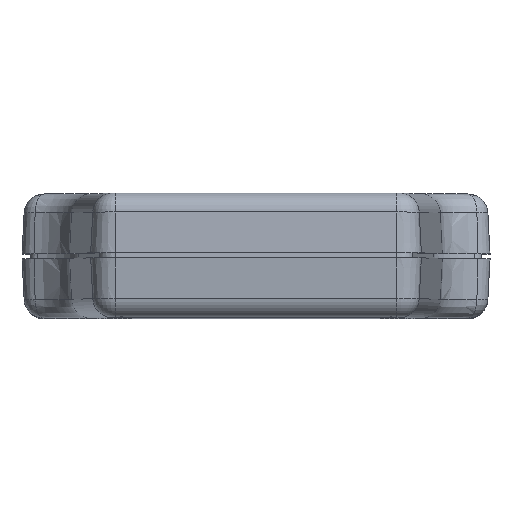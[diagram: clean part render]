
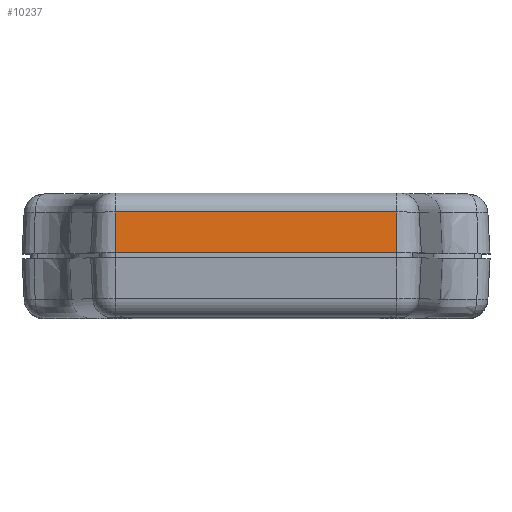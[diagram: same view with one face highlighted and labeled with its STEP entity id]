
A CAD part, top view. The second image highlights one B-rep face of the part: STEP entity #10237.
In plain terms, the highlighted planar face has unit normal (0, 0.052, 0.999).
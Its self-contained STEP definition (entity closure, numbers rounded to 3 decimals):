
#153 = CARTESIAN_POINT ( 'NONE',  ( 28.255, 0., 79.85 ) ) ;
#1122 = CARTESIAN_POINT ( 'NONE',  ( 28.255, 8.209, 79.42 ) ) ;
#1958 = VECTOR ( 'NONE', #7934, 1000. ) ;
#2160 = VECTOR ( 'NONE', #12649, 1000. ) ;
#2450 = EDGE_CURVE ( 'NONE', #12465, #6530, #3147, .T. ) ;
#3147 = LINE ( 'NONE', #10019, #7986 ) ;
#3350 = CARTESIAN_POINT ( 'NONE',  ( -28.255, 0., 79.85 ) ) ;
#3819 = DIRECTION ( 'NONE',  ( -1., 0., 0. ) ) ;
#3829 = CARTESIAN_POINT ( 'NONE',  ( 28.255, 0., 79.85 ) ) ;
#3922 = LINE ( 'NONE', #153, #11850 ) ;
#3965 = PLANE ( 'NONE',  #9781 ) ;
#4721 = LINE ( 'NONE', #3829, #1958 ) ;
#4910 = LINE ( 'NONE', #3350, #2160 ) ;
#4996 = VERTEX_POINT ( 'NONE', #13348 ) ;
#5029 = DIRECTION ( 'NONE',  ( 0., -0.999, 0.052 ) ) ;
#5603 = FACE_OUTER_BOUND ( 'NONE', #11298, .T. ) ;
#6530 = VERTEX_POINT ( 'NONE', #7273 ) ;
#6622 = ORIENTED_EDGE ( 'NONE', *, *, #2450, .T. ) ;
#6731 = CARTESIAN_POINT ( 'NONE',  ( -28.255, 0., 79.85 ) ) ;
#7273 = CARTESIAN_POINT ( 'NONE',  ( -28.255, 8.209, 79.42 ) ) ;
#7709 = EDGE_CURVE ( 'NONE', #6530, #10104, #4910, .T. ) ;
#7934 = DIRECTION ( 'NONE',  ( 0., -0.999, 0.052 ) ) ;
#7986 = VECTOR ( 'NONE', #3819, 1000. ) ;
#8081 = CARTESIAN_POINT ( 'NONE',  ( 28.255, 0., 79.85 ) ) ;
#8546 = ORIENTED_EDGE ( 'NONE', *, *, #8866, .T. ) ;
#8866 = EDGE_CURVE ( 'NONE', #10104, #4996, #3922, .T. ) ;
#8973 = ORIENTED_EDGE ( 'NONE', *, *, #7709, .T. ) ;
#9781 = AXIS2_PLACEMENT_3D ( 'NONE', #8081, #11211, #5029 ) ;
#10019 = CARTESIAN_POINT ( 'NONE',  ( 28.255, 8.209, 79.42 ) ) ;
#10104 = VERTEX_POINT ( 'NONE', #6731 ) ;
#10237 = ADVANCED_FACE ( 'NONE', ( #5603 ), #3965, .T. ) ;
#11211 = DIRECTION ( 'NONE',  ( 0., 0.052, 0.999 ) ) ;
#11298 = EDGE_LOOP ( 'NONE', ( #12942, #6622, #8973, #8546 ) ) ;
#11850 = VECTOR ( 'NONE', #12497, 1000. ) ;
#12204 = EDGE_CURVE ( 'NONE', #12465, #4996, #4721, .T. ) ;
#12465 = VERTEX_POINT ( 'NONE', #1122 ) ;
#12497 = DIRECTION ( 'NONE',  ( 1., 0., 0. ) ) ;
#12649 = DIRECTION ( 'NONE',  ( 0., -0.999, 0.052 ) ) ;
#12942 = ORIENTED_EDGE ( 'NONE', *, *, #12204, .F. ) ;
#13348 = CARTESIAN_POINT ( 'NONE',  ( 28.255, 0., 79.85 ) ) ;
